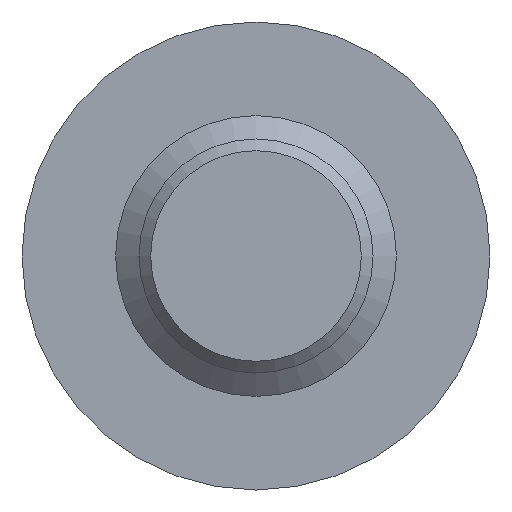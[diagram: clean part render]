
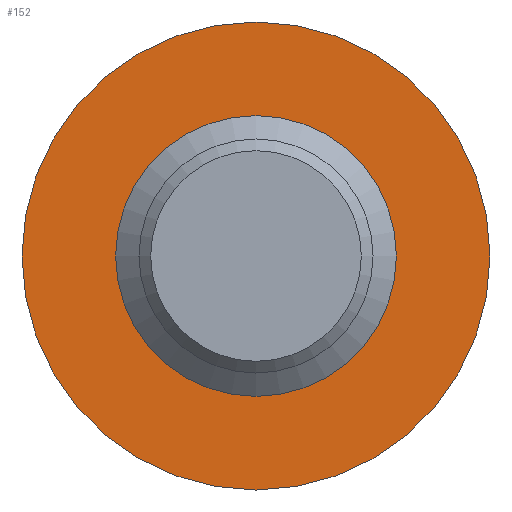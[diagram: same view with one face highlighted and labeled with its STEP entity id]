
A CAD part, front view. The second image highlights one B-rep face of the part: STEP entity #152.
In plain terms, the highlighted planar face has unit normal (0, -1, 0).
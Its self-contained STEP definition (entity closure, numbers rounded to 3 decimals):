
#15=FACE_BOUND('',#57,.T.);
#21=PLANE('',#195);
#45=FACE_OUTER_BOUND('',#56,.T.);
#56=EDGE_LOOP('',(#129));
#57=EDGE_LOOP('',(#130));
#67=CIRCLE('',#186,10.);
#72=CIRCLE('',#196,5.25);
#79=VERTEX_POINT('',#270);
#84=VERTEX_POINT('',#288);
#93=EDGE_CURVE('',#79,#79,#67,.T.);
#100=EDGE_CURVE('',#84,#84,#72,.T.);
#129=ORIENTED_EDGE('',*,*,#93,.F.);
#130=ORIENTED_EDGE('',*,*,#100,.F.);
#152=ADVANCED_FACE('',(#45,#15),#21,.F.);
#186=AXIS2_PLACEMENT_3D('',#272,#219,#220);
#195=AXIS2_PLACEMENT_3D('',#287,#239,#240);
#196=AXIS2_PLACEMENT_3D('',#289,#241,#242);
#219=DIRECTION('center_axis',(0.,1.,0.));
#220=DIRECTION('ref_axis',(1.,0.,0.));
#239=DIRECTION('center_axis',(0.,1.,0.));
#240=DIRECTION('ref_axis',(0.,0.,1.));
#241=DIRECTION('center_axis',(0.,-1.,0.));
#242=DIRECTION('ref_axis',(1.,0.,0.));
#270=CARTESIAN_POINT('',(-10.,75.7,0.));
#272=CARTESIAN_POINT('Origin',(0.,75.7,0.));
#287=CARTESIAN_POINT('Origin',(0.,75.7,0.));
#288=CARTESIAN_POINT('',(-5.25,75.7,0.));
#289=CARTESIAN_POINT('Origin',(0.,75.7,0.));
